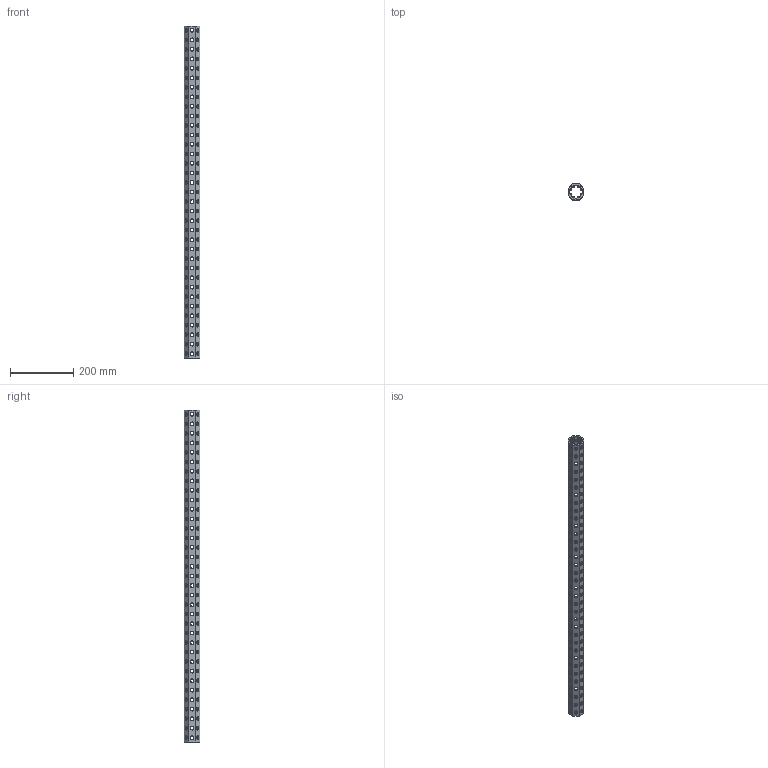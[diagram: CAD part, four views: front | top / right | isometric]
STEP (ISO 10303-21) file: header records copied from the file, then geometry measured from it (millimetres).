
FILE_DESCRIPTION(('CATIA V5 STEP Exchange'),'2;1');
FILE_NAME('U:\Room\唐宝山\EGT002\46-01-010264-01-EGT002-1048.stp','2021-08-24T01:14:08+00:00',('none'),('none'),'CATIA Version 5 Release 21 GA (IN-10)','CATIA V5 STEP AP203','none');
FILE_SCHEMA(('CONFIG_CONTROL_DESIGN'));
Products named in the file (1): 46-01-010264-01-EGT002-1048
Bounding box: 50 x 50 x 1048 mm (x, y, z)
Volume: 746568.6 mm3; surface area: 360788 mm2
Topology: 1 solids, 1 shells, 1484 faces, 4096 edges, 2544 vertices
Faces by surface type: cone 840, cylinder 618, plane 26
Entity records: 64321 total; most frequent: CARTESIAN_POINT 28756, ORIENTED_EDGE 8192, DIRECTION 5576, EDGE_CURVE 4096, VERTEX_POINT 2544, AXIS2_PLACEMENT_3D 2493, EDGE_LOOP 1976, VECTOR 1600
